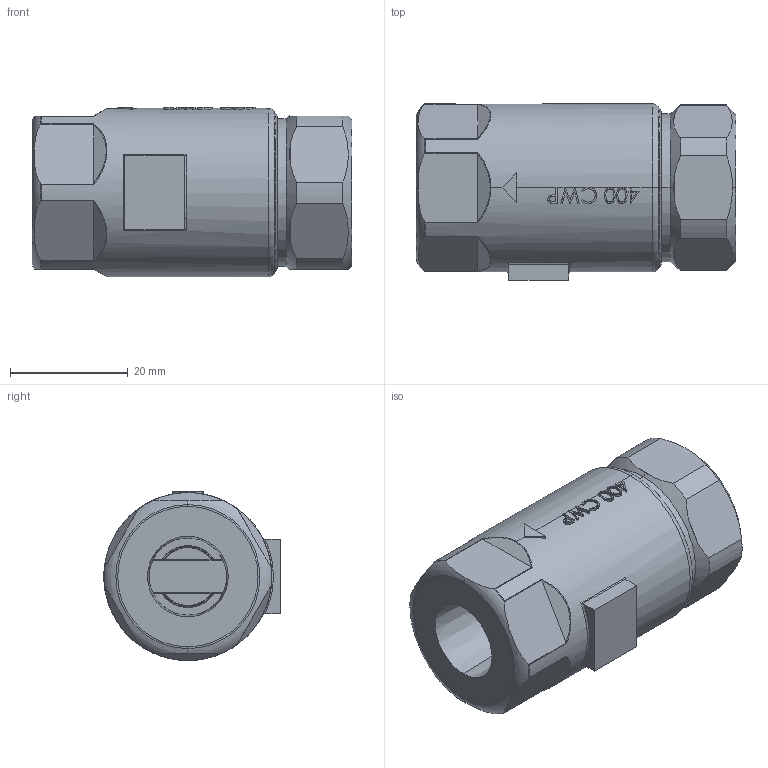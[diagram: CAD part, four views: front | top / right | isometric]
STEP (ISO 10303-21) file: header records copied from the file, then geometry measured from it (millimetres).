
FILE_DESCRIPTION (( 'STEP AP203' ), '1' );
FILE_NAME ('SC-2.STEP', '2022-09-19T20:15:56', ( '' ), ( '' ), 'SwSTEP 2.0', 'SolidWorks 2021', '' );
FILE_SCHEMA (( 'CONFIG_CONTROL_DESIGN' ));
Length unit declared in the file: inch
Products named in the file (1): SC-2
Bounding box: 54.36 x 29.97 x 28.77 mm (x, y, z)
Volume: 22915.7 mm3; surface area: 10632.2 mm2
Topology: 2 solids, 2 shells, 222 faces, 581 edges, 376 vertices
Faces by surface type: plane 91, cylinder 45, bspline 45, torus 29, cone 10, sphere 2
Entity records: 11994 total; most frequent: CARTESIAN_POINT 6901, ORIENTED_EDGE 1162, DIRECTION 875, EDGE_CURVE 581, VERTEX_POINT 376, AXIS2_PLACEMENT_3D 321, EDGE_LOOP 239, LINE 233
